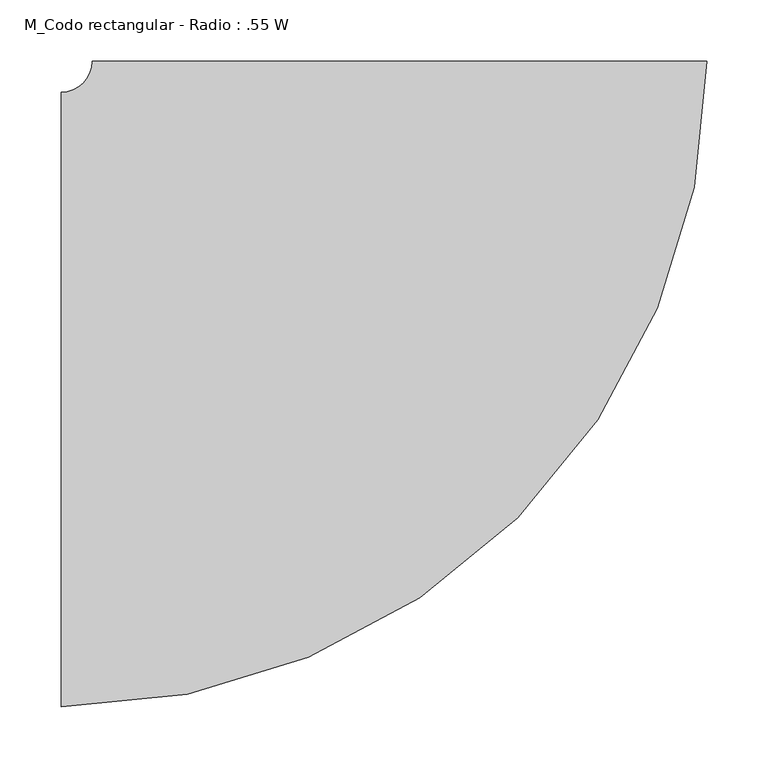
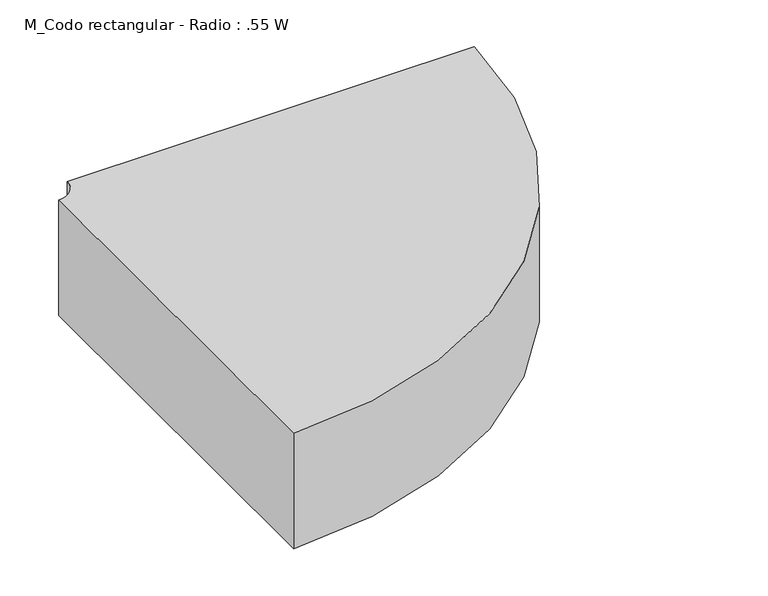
"""IFC4 building model written with IfcOpenShell, lengths in millimetres: duct fitting geometry, M_Codo rectangular - Radio : .55 W."""

from ifc_helpers import new_model, si_unit, point, frame, frame_2d, origin, place, context, project, spatial, polyline, circle_curve, trimmed, segment, composite_curve, outline, extrude, source, transform, mapped, element, save


def m_codo_rectangular_radio_55_w_a8f71817(model_context):
    return source(origin(), model_context, "Body", "SweptSolid", [
        extrude(outline(composite_curve([segment(trimmed(circle_curve(frame_2d((-275.0, 275.0)), 525.0), [point((250.0, 275.0))], [point((-275.0, -250.0))], False, "CARTESIAN"), True, "CONTINUOUS"), segment(polyline([(-275.0, -250.0), (-275.0, 250.0)]), True, "CONTINUOUS"), segment(trimmed(circle_curve(frame_2d((-275.0, 275.0)), 25.0), [point((-275.0, 250.0))], [point((-250.0, 275.0))], True, "CARTESIAN"), True, "CONTINUOUS"), segment(polyline([(-250.0, 275.0), (250.0, 275.0)]), True, "CONTINUOUS")], self_intersect=False)), frame((0.0, 0.0, -75.0), z_axis=(0.0, 0.0, 1.0), x_axis=(1.0, 0.0, 0.0)), (0.0, 0.0, 1.0), 150.0),
    ])


if __name__ == "__main__":
    model = new_model("IFC4")
    model_context = context("Model", 3, world=origin())
    ifc_project = project(units=[si_unit("LENGTHUNIT", "METRE", prefix="MILLI")], contexts=[model_context])
    site = spatial("IfcSite", under=ifc_project)
    building = spatial("IfcBuilding", under=site)
    placement = place(None, origin())
    m_codo_rectangular_radio_55_w_shape = m_codo_rectangular_radio_55_w_a8f71817(model_context)
    element("IfcDuctFitting", 1, ObjectType="M_Codo rectangular - Radio : .55 W", at=placement, inside=building, context=model_context, shape_type="MappedRepresentation", body=[
        mapped(m_codo_rectangular_radio_55_w_shape, transform((0.0, 0.0, 0.0), x_axis=(1.0, 0.0, 0.0), y_axis=(0.0, 1.0, 0.0), z_axis=(0.0, 0.0, 1.0))),
    ])
    save(model, "model.ifc")
